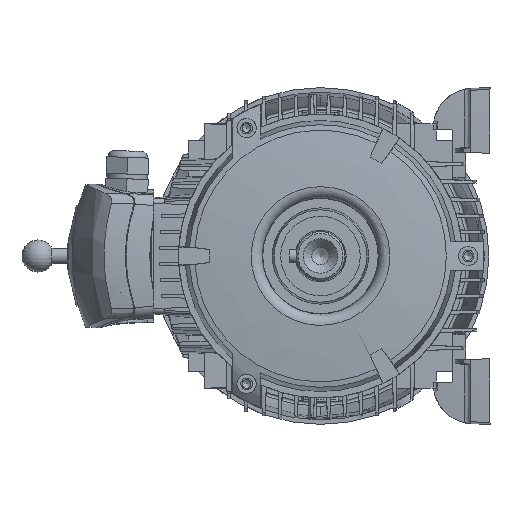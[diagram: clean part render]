
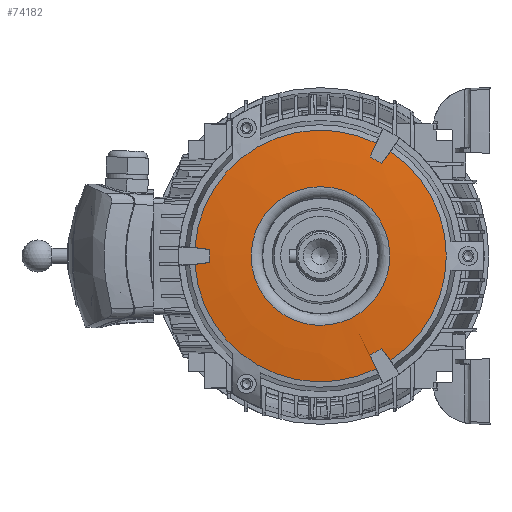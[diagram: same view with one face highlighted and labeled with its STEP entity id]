
A CAD part, left-side view. The second image highlights one B-rep face of the part: STEP entity #74182.
In plain terms, the highlighted free-form (B-spline) face has degree [2, 2] with [3, 9] control points.
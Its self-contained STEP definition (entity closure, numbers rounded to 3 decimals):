
#73830=CARTESIAN_POINT('',(-87.935,-43.26,28.573));
#73831=VERTEX_POINT('',#73830);
#73839=CARTESIAN_POINT('',(-6.504,97.784,28.573));
#73840=VERTEX_POINT('',#73839);
#73841=CARTESIAN_POINT('',(0.0,0.0,28.573));
#73842=DIRECTION('',(0.0,0.0,-1.0));
#73843=DIRECTION('',(-1.0,0.0,0.0));
#73844=AXIS2_PLACEMENT_3D('',#73841,#73842,#73843);
#73845=CIRCLE('',#73844,98.);
#73846=EDGE_CURVE('',#73831,#73840,#73845,.T.);
#74036=CARTESIAN_POINT('',(-98.061,0.,28.565));
#74037=CARTESIAN_POINT('',(-49.199,0.,35.056));
#74038=CARTESIAN_POINT('',(0.,0.,32.056));
#74039=CARTESIAN_POINT('',(-98.061,98.061,28.565));
#74040=CARTESIAN_POINT('',(-49.199,49.199,35.056));
#74041=CARTESIAN_POINT('',(0.,0.,32.056));
#74042=CARTESIAN_POINT('',(0.,98.061,28.565));
#74043=CARTESIAN_POINT('',(0.,49.199,35.056));
#74044=CARTESIAN_POINT('',(0.,0.,32.056));
#74045=CARTESIAN_POINT('',(98.061,98.061,28.565));
#74046=CARTESIAN_POINT('',(49.199,49.199,35.056));
#74047=CARTESIAN_POINT('',(0.,0.,32.056));
#74048=CARTESIAN_POINT('',(98.061,0.,28.565));
#74049=CARTESIAN_POINT('',(49.199,0.,35.056));
#74050=CARTESIAN_POINT('',(0.,0.,32.056));
#74051=CARTESIAN_POINT('',(98.061,-98.061,28.565));
#74052=CARTESIAN_POINT('',(49.199,-49.199,35.056));
#74053=CARTESIAN_POINT('',(0.,0.,32.056));
#74054=CARTESIAN_POINT('',(0.,-98.061,28.565));
#74055=CARTESIAN_POINT('',(0.,-49.199,35.056));
#74056=CARTESIAN_POINT('',(0.,0.,32.056));
#74057=CARTESIAN_POINT('',(-98.061,-98.061,28.565));
#74058=CARTESIAN_POINT('',(-49.199,-49.199,35.056));
#74059=CARTESIAN_POINT('',(0.,0.,32.056));
#74060=CARTESIAN_POINT('',(-98.061,0.,28.565));
#74061=CARTESIAN_POINT('',(-49.199,0.,35.056));
#74062=CARTESIAN_POINT('',(0.,0.,32.056));
#74070=(BOUNDED_SURFACE()B_SPLINE_SURFACE(2,2,((#74036,#74039,#74042,#74045,#74048,#74051,#74054,#74057,#74060),(#74037,#74040,#74043,#74046,#74049,#74052,#74055,#74058,#74061),(#74038,#74041,#74044,#74047,#74050,#74053,#74056,#74059,#74062)),.UNSPECIFIED.,.F.,.T.,.U.)B_SPLINE_SURFACE_WITH_KNOTS((3,3),(3,2,2,2,3),(1.439,1.632),(0.0,1.571,3.142,4.712,6.283),.UNSPECIFIED.)GEOMETRIC_REPRESENTATION_ITEM()RATIONAL_B_SPLINE_SURFACE(((1.0,0.707,1.0,0.707,1.0,0.707,1.0,0.707,1.0),(0.995,0.704,0.995,0.704,0.995,0.704,0.995,0.704,0.995),(1.0,0.707,1.0,0.707,1.0,0.707,1.0,0.707,1.0)))REPRESENTATION_ITEM('')SURFACE());
#74071=CARTESIAN_POINT('',(54.,0.0,32.48));
#74072=VERTEX_POINT('',#74071);
#74073=CARTESIAN_POINT('',(0.0,0.0,32.48));
#74074=DIRECTION('',(0.0,0.0,-1.0));
#74075=DIRECTION('',(1.0,0.0,0.0));
#74076=AXIS2_PLACEMENT_3D('',#74073,#74074,#74075);
#74077=CIRCLE('',#74076,54.);
#74078=EDGE_CURVE('',#74072,#74072,#74077,.T.);
#74079=ORIENTED_EDGE('',*,*,#74078,.T.);
#74080=EDGE_LOOP('',(#74079));
#74081=FACE_OUTER_BOUND('',#74080,.T.);
#74082=CARTESIAN_POINT('',(6.504,97.784,28.573));
#74083=VERTEX_POINT('',#74082);
#74084=CARTESIAN_POINT('',(87.935,-43.26,28.573));
#74085=VERTEX_POINT('',#74084);
#74086=CARTESIAN_POINT('',(0.0,0.0,28.573));
#74087=DIRECTION('',(0.0,0.0,-1.0));
#74088=DIRECTION('',(-1.0,0.0,0.0));
#74089=AXIS2_PLACEMENT_3D('',#74086,#74087,#74088);
#74090=CIRCLE('',#74089,98.);
#74091=EDGE_CURVE('',#74083,#74085,#74090,.T.);
#74092=ORIENTED_EDGE('',*,*,#74091,.F.);
#74093=CARTESIAN_POINT('',(5.03,86.049,30.));
#74094=VERTEX_POINT('',#74093);
#74095=CARTESIAN_POINT('',(5.03,86.049,30.));
#74096=CARTESIAN_POINT('',(5.676,89.945,29.572));
#74097=CARTESIAN_POINT('',(6.167,93.86,29.096));
#74098=CARTESIAN_POINT('',(6.504,97.784,28.573));
#74099=B_SPLINE_CURVE_WITH_KNOTS('',3,(#74095,#74096,#74097,#74098),.UNSPECIFIED.,.F.,.U.,(4,4),(56.172,57.362),.UNSPECIFIED.);
#74100=EDGE_CURVE('',#74094,#74083,#74099,.T.);
#74101=ORIENTED_EDGE('',*,*,#74100,.F.);
#74102=CARTESIAN_POINT('',(-5.03,86.049,30.));
#74103=VERTEX_POINT('',#74102);
#74104=CARTESIAN_POINT('',(0.0,0.0,30.));
#74105=DIRECTION('',(0.0,0.0,-1.0));
#74106=DIRECTION('',(1.0,0.0,0.0));
#74107=AXIS2_PLACEMENT_3D('',#74104,#74105,#74106);
#74108=CIRCLE('',#74107,86.196);
#74109=EDGE_CURVE('',#74103,#74094,#74108,.T.);
#74110=ORIENTED_EDGE('',*,*,#74109,.F.);
#74111=CARTESIAN_POINT('',(-6.504,97.784,28.573));
#74112=CARTESIAN_POINT('',(-6.167,93.86,29.096));
#74113=CARTESIAN_POINT('',(-5.676,89.946,29.572));
#74114=CARTESIAN_POINT('',(-5.03,86.049,30.));
#74115=B_SPLINE_CURVE_WITH_KNOTS('',3,(#74111,#74112,#74113,#74114),.UNSPECIFIED.,.F.,.U.,(4,4),(40.111,41.304),.UNSPECIFIED.);
#74116=EDGE_CURVE('',#73840,#74103,#74115,.T.);
#74117=ORIENTED_EDGE('',*,*,#74116,.F.);
#74118=ORIENTED_EDGE('',*,*,#73846,.F.);
#74119=CARTESIAN_POINT('',(-77.036,-38.668,30.));
#74120=VERTEX_POINT('',#74119);
#74121=CARTESIAN_POINT('',(-77.036,-38.668,30.));
#74122=CARTESIAN_POINT('',(-80.733,-40.057,29.572));
#74123=CARTESIAN_POINT('',(-84.368,-41.59,29.096));
#74124=CARTESIAN_POINT('',(-87.935,-43.26,28.573));
#74125=B_SPLINE_CURVE_WITH_KNOTS('',3,(#74121,#74122,#74123,#74124),.UNSPECIFIED.,.F.,.U.,(4,4),(56.172,57.362),.UNSPECIFIED.);
#74126=EDGE_CURVE('',#74120,#73831,#74125,.T.);
#74127=ORIENTED_EDGE('',*,*,#74126,.F.);
#74128=CARTESIAN_POINT('',(-72.005,-47.381,30.));
#74129=VERTEX_POINT('',#74128);
#74130=CARTESIAN_POINT('',(0.0,0.0,30.));
#74131=DIRECTION('',(0.0,0.0,-1.0));
#74132=DIRECTION('',(1.0,0.0,0.0));
#74133=AXIS2_PLACEMENT_3D('',#74130,#74131,#74132);
#74134=CIRCLE('',#74133,86.196);
#74135=EDGE_CURVE('',#74129,#74120,#74134,.T.);
#74136=ORIENTED_EDGE('',*,*,#74135,.F.);
#74137=CARTESIAN_POINT('',(-81.432,-54.524,28.573));
#74138=VERTEX_POINT('',#74137);
#74139=CARTESIAN_POINT('',(-81.432,-54.524,28.573));
#74140=CARTESIAN_POINT('',(-78.202,-52.271,29.096));
#74141=CARTESIAN_POINT('',(-75.057,-49.888,29.572));
#74142=CARTESIAN_POINT('',(-72.005,-47.381,30.));
#74143=B_SPLINE_CURVE_WITH_KNOTS('',3,(#74139,#74140,#74141,#74142),.UNSPECIFIED.,.F.,.U.,(4,4),(40.111,41.304),.UNSPECIFIED.);
#74144=EDGE_CURVE('',#74138,#74129,#74143,.T.);
#74145=ORIENTED_EDGE('',*,*,#74144,.F.);
#74146=CARTESIAN_POINT('',(81.432,-54.524,28.573));
#74147=VERTEX_POINT('',#74146);
#74148=CARTESIAN_POINT('',(0.0,0.0,28.573));
#74149=DIRECTION('',(0.0,0.0,-1.0));
#74150=DIRECTION('',(-1.0,0.0,0.0));
#74151=AXIS2_PLACEMENT_3D('',#74148,#74149,#74150);
#74152=CIRCLE('',#74151,98.);
#74153=EDGE_CURVE('',#74147,#74138,#74152,.T.);
#74154=ORIENTED_EDGE('',*,*,#74153,.F.);
#74155=CARTESIAN_POINT('',(72.005,-47.381,30.));
#74156=VERTEX_POINT('',#74155);
#74157=CARTESIAN_POINT('',(72.005,-47.381,30.));
#74158=CARTESIAN_POINT('',(75.057,-49.888,29.572));
#74159=CARTESIAN_POINT('',(78.202,-52.27,29.096));
#74160=CARTESIAN_POINT('',(81.432,-54.524,28.573));
#74161=B_SPLINE_CURVE_WITH_KNOTS('',3,(#74157,#74158,#74159,#74160),.UNSPECIFIED.,.F.,.U.,(4,4),(56.172,57.362),.UNSPECIFIED.);
#74162=EDGE_CURVE('',#74156,#74147,#74161,.T.);
#74163=ORIENTED_EDGE('',*,*,#74162,.F.);
#74164=CARTESIAN_POINT('',(77.036,-38.668,30.));
#74165=VERTEX_POINT('',#74164);
#74166=CARTESIAN_POINT('',(0.0,0.0,30.));
#74167=DIRECTION('',(0.0,0.0,-1.0));
#74168=DIRECTION('',(1.0,0.0,0.0));
#74169=AXIS2_PLACEMENT_3D('',#74166,#74167,#74168);
#74170=CIRCLE('',#74169,86.196);
#74171=EDGE_CURVE('',#74165,#74156,#74170,.T.);
#74172=ORIENTED_EDGE('',*,*,#74171,.F.);
#74173=CARTESIAN_POINT('',(87.935,-43.26,28.573));
#74174=CARTESIAN_POINT('',(84.369,-41.59,29.096));
#74175=CARTESIAN_POINT('',(80.733,-40.058,29.572));
#74176=CARTESIAN_POINT('',(77.036,-38.668,30.));
#74177=B_SPLINE_CURVE_WITH_KNOTS('',3,(#74173,#74174,#74175,#74176),.UNSPECIFIED.,.F.,.U.,(4,4),(40.111,41.304),.UNSPECIFIED.);
#74178=EDGE_CURVE('',#74085,#74165,#74177,.T.);
#74179=ORIENTED_EDGE('',*,*,#74178,.F.);
#74180=EDGE_LOOP('',(#74092,#74101,#74110,#74117,#74118,#74127,#74136,#74145,#74154,#74163,#74172,#74179));
#74181=FACE_BOUND('',#74180,.T.);
#74182=ADVANCED_FACE('',(#74081,#74181),#74070,.T.);
